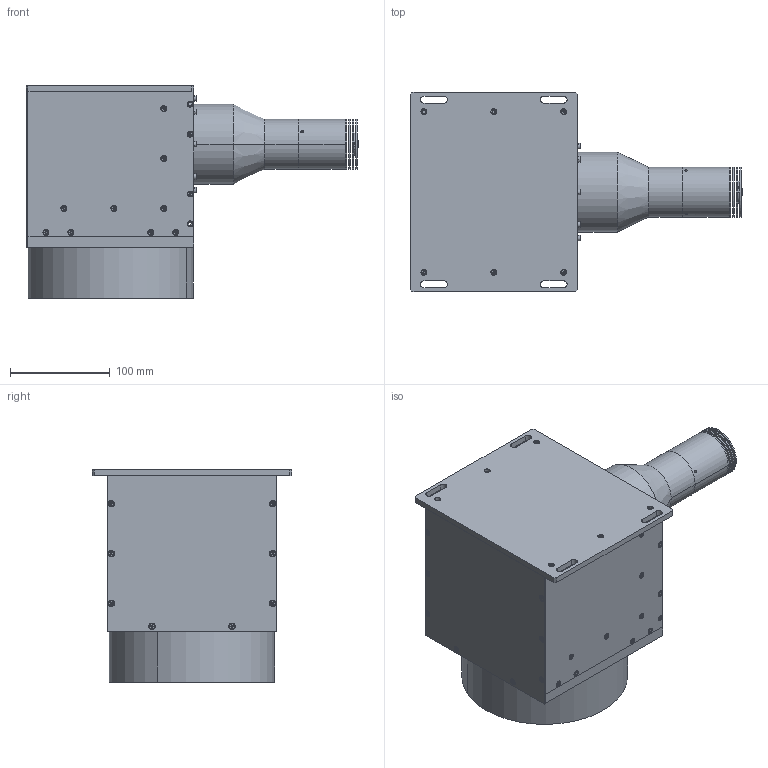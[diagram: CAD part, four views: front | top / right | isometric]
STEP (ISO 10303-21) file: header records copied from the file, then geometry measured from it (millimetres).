
FILE_DESCRIPTION (( 'STEP AP203' ), '1' );
FILE_NAME ('XF-PTI137-PRO-L90-(C).STEP', '2025-04-07T08:27:43', ( '' ), ( '' ), 'SwSTEP 2.0', 'SolidWorks 2022', '' );
FILE_SCHEMA (( 'CONFIG_CONTROL_DESIGN' ));
Length unit declared in the file: millimetre
Products named in the file (1): XF-PTI137-PRO-L90-(C)
Bounding box: 332.7 x 200 x 213 mm (x, y, z)
Surface area: 292064.2 mm2 (no closed solid volume)
Topology: 0 solids, 98 shells, 683 faces, 2177 edges, 1512 vertices
Faces by surface type: plane 355, cylinder 164, torus 82, cone 80, sphere 2
Entity records: 23784 total; most frequent: CARTESIAN_POINT 4543, DIRECTION 4249, ORIENTED_EDGE 3273, EDGE_CURVE 2119, VERTEX_POINT 1512, AXIS2_PLACEMENT_3D 1458, VECTOR 1333, LINE 1333
